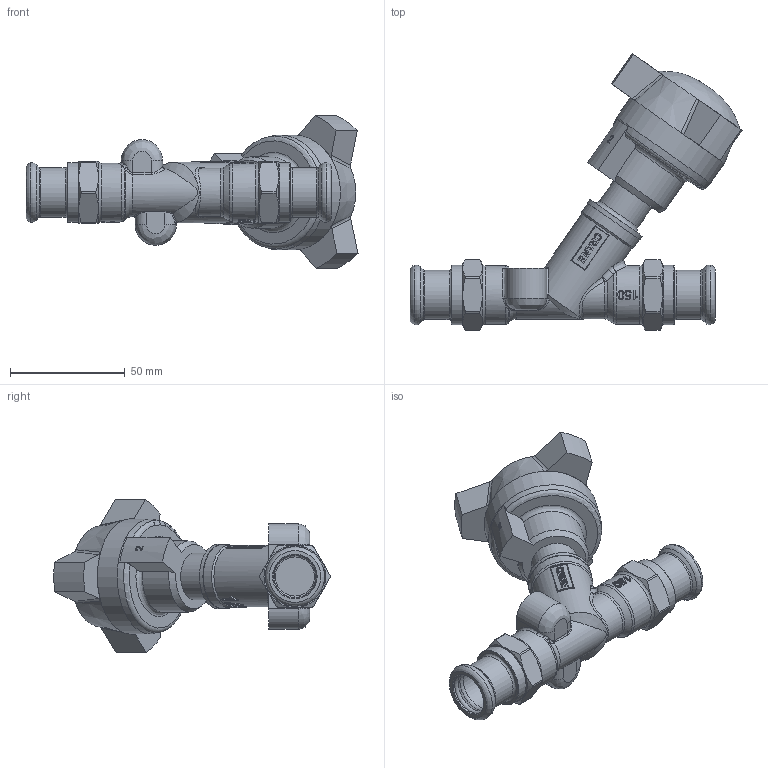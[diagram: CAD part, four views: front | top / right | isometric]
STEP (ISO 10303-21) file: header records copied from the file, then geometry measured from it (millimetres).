
FILE_DESCRIPTION((''),'2;1');
FILE_NAME('P:\Fastrack\53972_CRANE 3D\Push Fit\D921\D921-PF_18mm\D921-PF_18mm.stp','2011-08-23T16:03:11',('btaylor'),(''),'Autodesk Inventor 2008','Autodesk Inventor 2008','');
FILE_SCHEMA(('AUTOMOTIVE_DESIGN { 1 0 10303 214 1 1 1 1 }'));
Length unit declared in the file: millimetre
Products named in the file (1): D921-PF_18mm
Bounding box: 144.59 x 120.36 x 66.44 mm (x, y, z)
Volume: 163971.8 mm3; surface area: 33196.6 mm2
Topology: 1 solids, 3 shells, 753 faces, 2007 edges, 1316 vertices
Faces by surface type: bspline 336, plane 301, cylinder 72, cone 33, torus 11
Full cylindrical faces by diameter (mm): 18.2 x2, 18.8 x2, 20.3 x1, 21.45 x2, 25.4 x2, 26 x2, 26.4 x1, 27.5 x1, 28 x1, 50 x1
Entity records: 66880 total; most frequent: CARTESIAN_POINT 50629, ORIENTED_EDGE 3866, DIRECTION 2272, EDGE_CURVE 1933, VERTEX_POINT 1299, VECTOR 916, LINE 916, EDGE_LOOP 866
